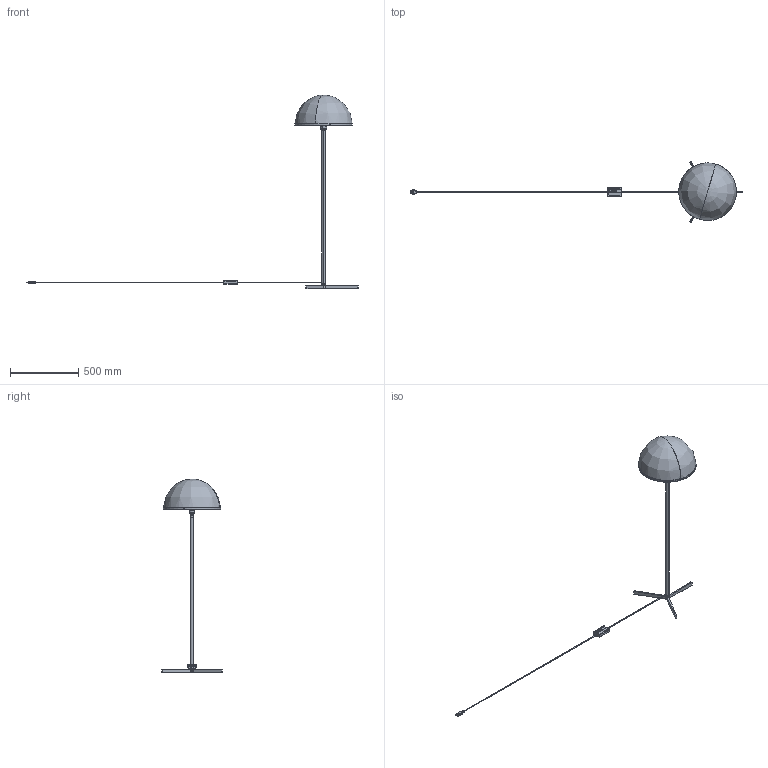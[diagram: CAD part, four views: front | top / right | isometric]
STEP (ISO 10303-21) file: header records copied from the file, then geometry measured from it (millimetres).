
FILE_DESCRIPTION(/* description */ (''),/* implementation_level */ '2;1');
FILE_NAME(/* name */ '29915_3d',/* time_stamp */ '2026-02-25T14:17:53+01:00',/* author */ (''),/* organization */ (''),/* preprocessor_version */ 'ST-DEVELOPER v19.2',/* originating_system */ 'Rhino 8.23',/* authorisation */ '');
FILE_SCHEMA (('CONFIG_CONTROL_DESIGN'));
Length unit declared in the file: millimetre
Products named in the file (2): Document; DOME PIE
Bounding box: 2436.55 x 442.26 x 1422.5 mm (x, y, z)
Volume: 274485 mm3; surface area: 1015130.1 mm2
Topology: 16 solids, 479 shells, 1105 faces, 3548 edges, 2922 vertices
Faces by surface type: cylinder 413, plane 367, bspline 325
Entity records: 57976 total; most frequent: CARTESIAN_POINT 31615, ORIENTED_EDGE 4997, EDGE_CURVE 3537, DIRECTION 3180, VERTEX_POINT 2922, B_SPLINE_CURVE_WITH_KNOTS 1981, AXIS2_PLACEMENT_3D 1980, CIRCLE 1195
